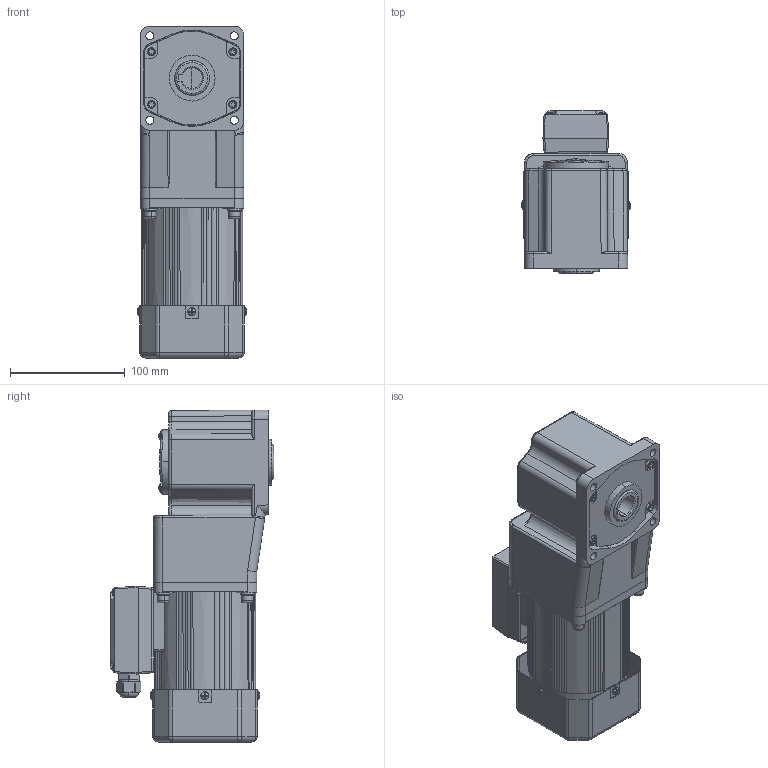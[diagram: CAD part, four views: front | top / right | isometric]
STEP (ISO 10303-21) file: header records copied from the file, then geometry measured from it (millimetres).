
FILE_DESCRIPTION (( 'STEP AP203' ), '1' );
FILE_NAME ('90型60w 直角中心 中空 孔18键6 +中号接线盒 减速电机.STEP', '2020-10-31T00:40:42', ( 'XYDIY' ), ( 'XIAOYIN.Com' ), 'SwSTEP 2.0', 'SolidWorks 2014', '' );
FILE_SCHEMA (( 'CONFIG_CONTROL_DESIGN' ));
Length unit declared in the file: millimetre
Products named in the file (1): 90型60w  直角中心 中空 孔18键6  +中号接线盒 减速电机
Bounding box: 95.59 x 142.31 x 289.48 mm (x, y, z)
Surface area: 179123.3 mm2 (no closed solid volume)
Topology: 0 solids, 30 shells, 807 faces, 2588 edges, 1761 vertices
Faces by surface type: cylinder 326, plane 317, cone 54, bspline 54, torus 38, sphere 18
Entity records: 32324 total; most frequent: CARTESIAN_POINT 9927, DIRECTION 4775, ORIENTED_EDGE 4315, EDGE_CURVE 2570, AXIS2_PLACEMENT_3D 1796, VERTEX_POINT 1761, LINE 1183, VECTOR 1183
